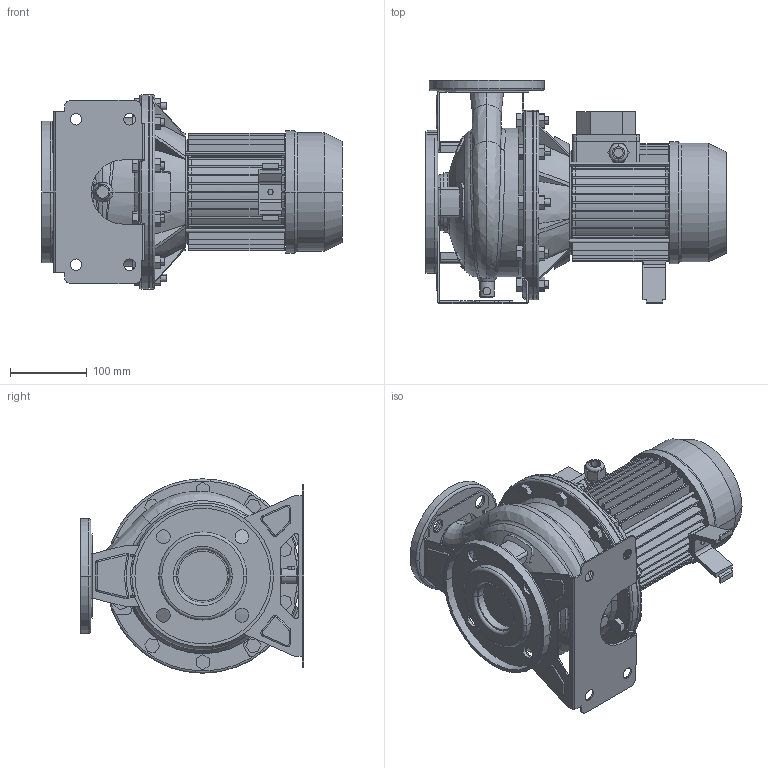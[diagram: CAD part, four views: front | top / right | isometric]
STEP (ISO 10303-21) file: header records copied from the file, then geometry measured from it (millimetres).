
FILE_DESCRIPTION((''),'2;1');
FILE_NAME('3M4_40-160_0_55_ASM','2012-03-15T',('Rosa'),('"Ebara Pumps Europe +39.444.706811"'),'PRO/ENGINEER BY PARAMETRIC TECHNOLOGY CORPORATION, 2009360','PRO/ENGINEER BY PARAMETRIC TECHNOLOGY CORPORATION, 2009360','');
FILE_SCHEMA(('AUTOMOTIVE_DESIGN { 1 0 10303 214 1 1 1 1 }'));
Length unit declared in the file: millimetre
Products named in the file (12): CORPO_40-160; ASP_40-160; FLANGIA_DIN_65; MAND_40-160; FLANGIA_DIN_40; BASE_3M_40-160; CORPO_SALDATO_40-160_ASM; SUPPORTO_3M_190_80; MEC_80; SOSTEGNO_72004; 72015; 3M4_40-160_0_55_ASM
Assembly tree (11 placements, depth 3):
  3M4_40-160_0_55_ASM
    CORPO_SALDATO_40-160_ASM
      CORPO_40-160
      ASP_40-160
      FLANGIA_DIN_65
      MAND_40-160
      FLANGIA_DIN_40
      BASE_3M_40-160
    SUPPORTO_3M_190_80
    MEC_80
    SOSTEGNO_72004
    72015
Bounding box: 393 x 292 x 254 mm (x, y, z)
Volume: 7269330.2 mm3; surface area: 949896.2 mm2
Topology: 13 solids, 13 shells, 1115 faces, 2814 edges, 1783 vertices
Faces by surface type: plane 590, cylinder 313, cone 92, torus 68, bspline 46, sphere 6
Entity records: 48905 total; most frequent: CARTESIAN_POINT 10553, DIRECTION 5740, ORIENTED_EDGE 5628, EDGE_CURVE 2814, PRESENTATION_STYLE_ASSIGNMENT 2742, STYLED_ITEM 2742, CURVE_STYLE 2730, AXIS2_PLACEMENT_3D 2099
